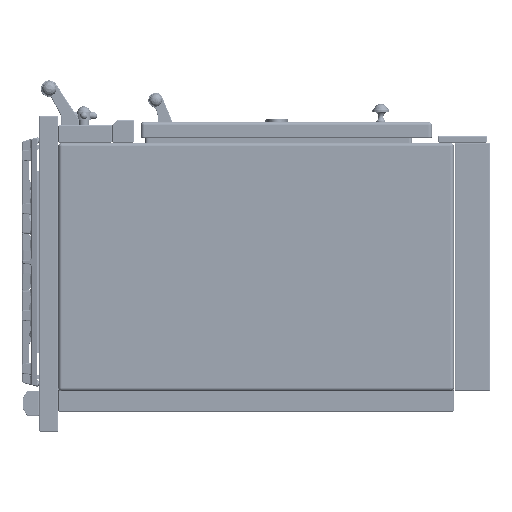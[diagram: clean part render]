
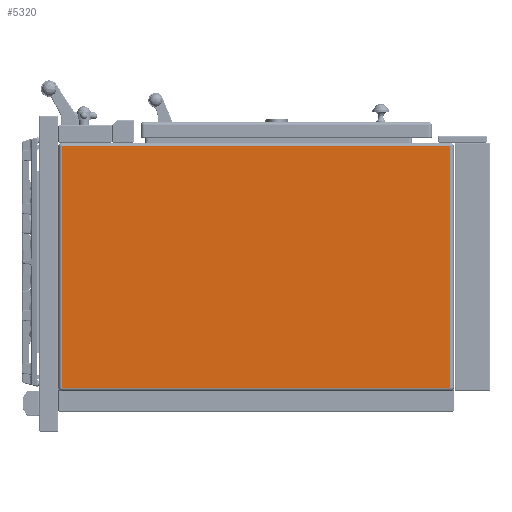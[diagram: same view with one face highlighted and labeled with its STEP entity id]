
A CAD part, left-side view. The second image highlights one B-rep face of the part: STEP entity #5320.
In plain terms, the highlighted planar face has unit normal (-1, 0, 0).
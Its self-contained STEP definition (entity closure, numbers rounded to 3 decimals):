
#442=DIRECTION('',(0.,1.,0.));
#443=VECTOR('',#442,801.);
#444=CARTESIAN_POINT('',(-1150.,82.,249.));
#445=LINE('',#444,#443);
#446=DIRECTION('',(0.,0.,1.));
#447=VECTOR('',#446,498.);
#448=CARTESIAN_POINT('',(-1150.,82.,-249.));
#449=LINE('',#448,#447);
#450=DIRECTION('',(0.,-1.,0.));
#451=VECTOR('',#450,801.);
#452=CARTESIAN_POINT('',(-1150.,883.,-249.));
#453=LINE('',#452,#451);
#454=DIRECTION('',(0.,0.,-1.));
#455=VECTOR('',#454,498.);
#456=CARTESIAN_POINT('',(-1150.,883.,249.));
#457=LINE('',#456,#455);
#3738=CARTESIAN_POINT('',(-1150.,82.,249.));
#3739=CARTESIAN_POINT('',(-1150.,883.,249.));
#3740=VERTEX_POINT('',#3738);
#3741=VERTEX_POINT('',#3739);
#3742=CARTESIAN_POINT('',(-1150.,82.,-249.));
#3743=VERTEX_POINT('',#3742);
#3760=CARTESIAN_POINT('',(-1150.,883.,-249.));
#3761=VERTEX_POINT('',#3760);
#5307=CARTESIAN_POINT('',(-1150.,0.,0.));
#5308=DIRECTION('',(1.,0.,0.));
#5309=DIRECTION('',(0.,0.,-1.));
#5310=AXIS2_PLACEMENT_3D('',#5307,#5308,#5309);
#5311=PLANE('',#5310);
#5312=ORIENTED_EDGE('',*,*,#5252,.F.);
#5313=ORIENTED_EDGE('',*,*,#5290,.F.);
#5315=ORIENTED_EDGE('',*,*,#5314,.F.);
#5317=ORIENTED_EDGE('',*,*,#5316,.F.);
#5318=EDGE_LOOP('',(#5312,#5313,#5315,#5317));
#5319=FACE_OUTER_BOUND('',#5318,.F.);
#5252=EDGE_CURVE('',#3740,#3741,#445,.T.);
#5290=EDGE_CURVE('',#3743,#3740,#449,.T.);
#5314=EDGE_CURVE('',#3761,#3743,#453,.T.);
#5316=EDGE_CURVE('',#3741,#3761,#457,.T.);
#5320=ADVANCED_FACE('',(#5319),#5311,.F.);
